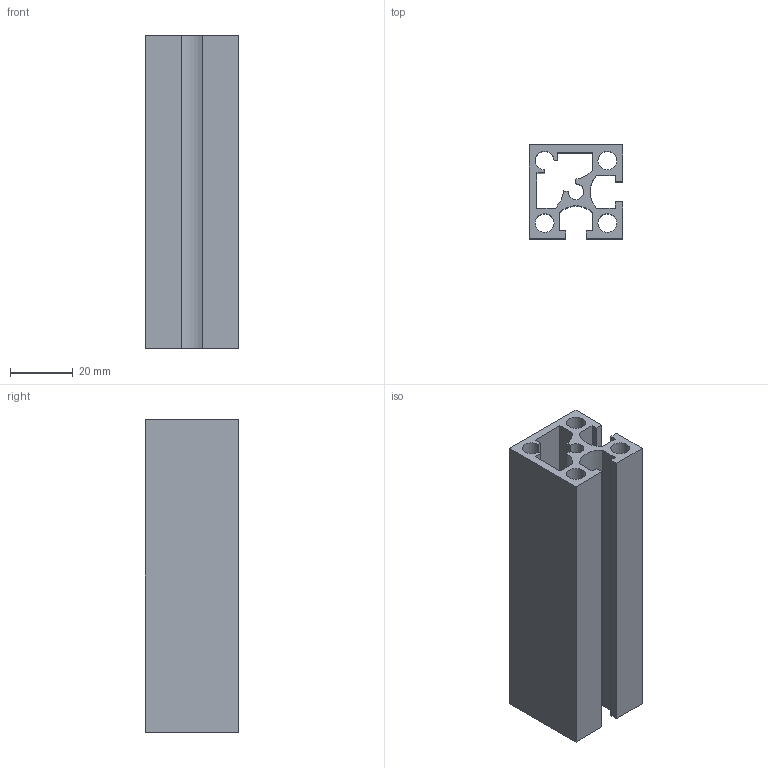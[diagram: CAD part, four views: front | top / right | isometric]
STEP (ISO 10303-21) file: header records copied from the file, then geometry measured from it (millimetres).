
FILE_DESCRIPTION(/* description */ ('Unknown'),/* implementation_level */ '2;1');
FILE_NAME(/* name */ 'NM3030C2',/* time_stamp */ '2026-08-31T11:14:50+08:00',/* author */ ('Unknown'),/* organization */ ('Unknown'),/* preprocessor_version */ 'ST-DEVELOPER v16.7',/* originating_system */ 'DEX',/* authorisation */ $);
FILE_SCHEMA (('AUTOMOTIVE_DESIGN {1 0 10303 214 3 1 1}'));
Length unit declared in the file: millimetre
Products named in the file (1): 3030C2
Bounding box: 30 x 30 x 100 mm (x, y, z)
Volume: 38382.6 mm3; surface area: 31805 mm2
Topology: 1 solids, 1 shells, 41 faces, 117 edges, 78 vertices
Faces by surface type: plane 32, cylinder 9
Full cylindrical faces by diameter (mm): 6 x3
Entity records: 1360 total; most frequent: CARTESIAN_POINT 234, ORIENTED_EDGE 228, DIRECTION 216, EDGE_CURVE 114, LINE 96, VECTOR 96, VERTEX_POINT 78, AXIS2_PLACEMENT_3D 60
